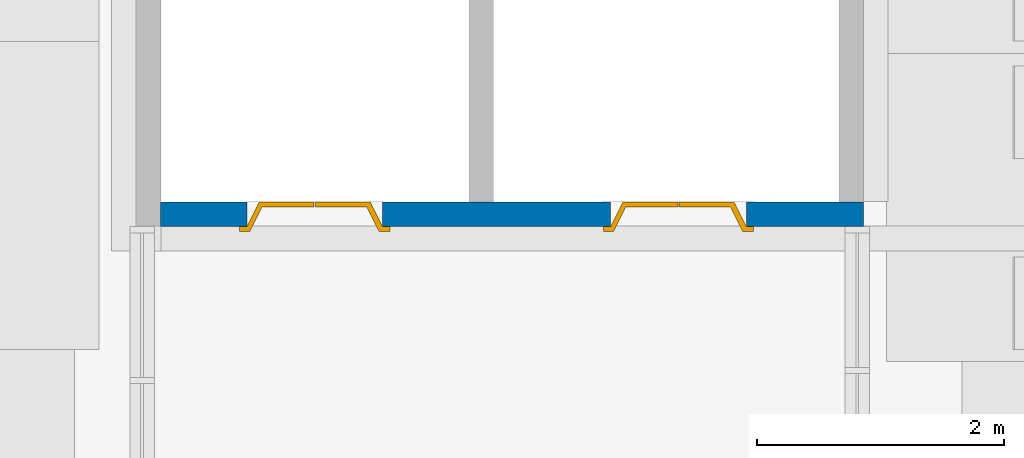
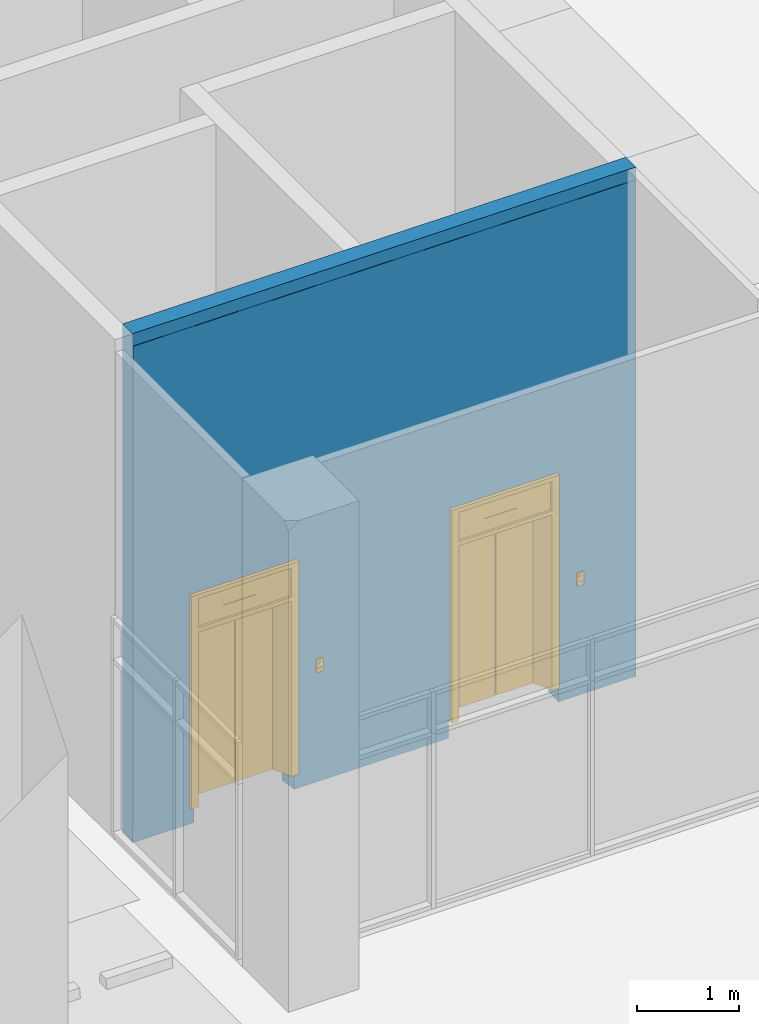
# One storey, part 23 of 29: 2 doors, 1 wall, 2 openings.
"""IFC2X3 building model written with IfcOpenShell, lengths in millimetres."""

import ifcopenshell
import ifcopenshell.guid

model = None  # the IFC model being written
_history = None  # IfcOwnerHistory: only IFC2X3 demands one
_inside = {}  # id of a spatial element -> (the spatial element, [elements in it])
_under = {}  # id of a project, library or spatial element -> (it, [spatial elements below it])
_declared = {}  # id of a project -> (the project, [libraries it declares])
_typed = {}  # id of a type object -> (the type object, [elements of that type])
_made_of = {}  # id of a material, layer set ... -> (it, [elements and type objects made of it])


def new_model(schema):
    """Start an empty IFC model of exactly this schema.

    Asked for "IFC4X3", IfcOpenShell would pick the latest addendum, in which some entities
    have other attributes; the version numbers below select the first issue.
    IFC2X3 requires an IfcOwnerHistory on every rooted entity: one is made here for all.
    """
    global model, _history
    if schema == "IFC4X3":
        model = ifcopenshell.file(schema_version=(4, 3, 0, 0))
    else:
        model = ifcopenshell.file(schema=schema)
    _inside.clear()
    _under.clear()
    _declared.clear()
    _typed.clear()
    _made_of.clear()
    _history = None
    if model.schema == "IFC2X3":
        org = make("IfcOrganization", Name="unknown")
        user = make(
            "IfcPersonAndOrganization",
            ThePerson=make("IfcPerson", FamilyName="unknown"),
            TheOrganization=org,
        )
        app = make(
            "IfcApplication",
            ApplicationDeveloper=org,
            Version="unknown",
            ApplicationFullName="unknown",
            ApplicationIdentifier="unknown",
        )
        _history = make(
            "IfcOwnerHistory",
            OwningUser=user,
            OwningApplication=app,
            ChangeAction="ADDED",
            CreationDate=0,
        )
    return model


def make(cls, **values):
    """One entity of the class cls with the attributes given. An attribute that is None is left unset."""
    return model.create_entity(
        cls, **{name: value for name, value in values.items() if value is not None}
    )


def entity(cls, *values):
    """Any entity or typed value of the class cls, its attributes in the order of the schema. None: left unset."""
    e = model.create_entity(cls)
    for i, value in enumerate(values):
        if value is not None:
            e[i] = value
    return e


def rooted(cls, **values):
    """An entity with a GlobalId (a new one), such as an element, a storey or a relation."""
    return make(cls, GlobalId=ifcopenshell.guid.new(), OwnerHistory=_history, **values)


def si_unit(unit_type, name, prefix=None):
    """IfcSIUnit, for example si_unit("LENGTHUNIT", "METRE", prefix="MILLI")."""
    return make("IfcSIUnit", UnitType=unit_type, Prefix=prefix, Name=name)


def converted_unit(unit_type, name, factor, base, dimensions=None, offset=None):
    """IfcConversionBasedUnit, such as the inch: factor (a typed value) times the base unit."""
    return make(
        "IfcConversionBasedUnit"
        if offset is None
        else "IfcConversionBasedUnitWithOffset",
        ConversionOffset=offset,
        Dimensions=None
        if dimensions is None
        else entity("IfcDimensionalExponents", *dimensions),
        UnitType=unit_type,
        Name=name,
        ConversionFactor=make(
            "IfcMeasureWithUnit", ValueComponent=factor, UnitComponent=base
        ),
    )


def derived_unit(unit_type, elements):
    """IfcDerivedUnit: a product of units, each with its exponent."""
    return make(
        "IfcDerivedUnit",
        Elements=[
            make("IfcDerivedUnitElement", Unit=unit, Exponent=power)
            for unit, power in elements
        ],
        UnitType=unit_type,
    )


def assignment(units):
    """IfcUnitAssignment: the units of a project."""
    return None if units is None else make("IfcUnitAssignment", Units=units)


def point(xyz):
    """IfcCartesianPoint."""
    return None if xyz is None else make("IfcCartesianPoint", Coordinates=xyz)


def direction(xyz):
    """IfcDirection."""
    return None if xyz is None else make("IfcDirection", DirectionRatios=xyz)


def frame(location, z_axis=None, x_axis=None):
    """IfcAxis2Placement3D, a coordinate frame: its origin and axes. An axis left out is left unset."""
    return make(
        "IfcAxis2Placement3D",
        Location=point(location),
        Axis=direction(z_axis),
        RefDirection=direction(x_axis),
    )


def frame_2d(location, x_axis=None):
    """IfcAxis2Placement2D, a coordinate frame in the plane: its origin and x axis."""
    return make(
        "IfcAxis2Placement2D", Location=point(location), RefDirection=direction(x_axis)
    )


def origin():
    """The frame at (0, 0, 0) with its axes left unset."""
    return frame((0.0, 0.0, 0.0))


def place(relative_to, where):
    """IfcLocalPlacement: puts the frame where relative to a parent placement (None: the world)."""
    return make(
        "IfcLocalPlacement", PlacementRelTo=relative_to, RelativePlacement=where
    )


def context(
    kind, dimensions, precision=None, world=None, true_north=None, identifier=None
):
    """IfcGeometricRepresentationContext, for example the 3D "Model" context."""
    return make(
        "IfcGeometricRepresentationContext",
        ContextIdentifier=identifier,
        ContextType=kind,
        CoordinateSpaceDimension=dimensions,
        Precision=precision,
        WorldCoordinateSystem=world,
        TrueNorth=true_north,
    )


def subcontext(parent, identifier, kind, view, scale=None):
    """IfcGeometricRepresentationSubContext, for example "Body" below "Model"."""
    return make(
        "IfcGeometricRepresentationSubContext",
        ContextIdentifier=identifier,
        ContextType=kind,
        ParentContext=parent,
        TargetScale=scale,
        TargetView=view,
    )


def project(units=None, contexts=None):
    """IfcProject with its units and contexts."""
    return rooted(
        "IfcProject",
        Name="project",
        RepresentationContexts=contexts,
        UnitsInContext=assignment(units),
    )


def spatial(cls, under=None, at=None, **own):
    """A site, building, storey or space (cls), placed at a placement, below another one or the project."""
    s = rooted(cls, ObjectPlacement=at, **own)
    if under is not None:
        _under.setdefault(under.id(), (under, []))[1].append(s)
    return s


def profile(cls, at=None, kind="AREA", **sizes):
    """A parametric profile (cls). Its sizes go by their IFC names, for example OverallWidth=200.0."""
    return make(cls, ProfileType=kind, Position=at, **sizes)


def rectangle(**sizes):
    """IfcRectangleProfileDef."""
    return profile("IfcRectangleProfileDef", **sizes)


def extrude(swept, where, along, depth):
    """IfcExtrudedAreaSolid: the profile swept, set in the frame where, extruded along a direction by depth."""
    return make(
        "IfcExtrudedAreaSolid",
        SweptArea=swept,
        Position=where,
        ExtrudedDirection=direction(along),
        Depth=depth,
    )


def faces_of(points, faces, orient=None, outer=None):
    """IfcFace entities. A face is a list of loops; a loop is a list of indices into points, from 0.

    orient and outer hold one flag for each loop. By default every Orientation is true, the
    first loop of a face is its IfcFaceOuterBound and the others are IfcFaceBound.
    """
    made = []
    for i, loops in enumerate(faces):
        bounds = []
        for j, loop in enumerate(loops):
            is_outer = j == 0 if outer is None else outer[i][j]
            bounds.append(
                make(
                    "IfcFaceOuterBound" if is_outer else "IfcFaceBound",
                    Bound=make("IfcPolyLoop", Polygon=[points[k] for k in loop]),
                    Orientation=True if orient is None else orient[i][j],
                )
            )
        made.append(make("IfcFace", Bounds=bounds))
    return made


def faceted_brep(points, faces, orient=None, outer=None, voids=None):
    """IfcFacetedBrep: a solid bounded by flat faces; with voids (closed shells), ...WithVoids."""
    shared = [point(p) for p in points]
    hull = make("IfcClosedShell", CfsFaces=faces_of(shared, faces, orient, outer))
    if voids is None:
        return make("IfcFacetedBrep", Outer=hull)
    return make(
        "IfcFacetedBrepWithVoids",
        Outer=hull,
        Voids=[
            make(cls, CfsFaces=faces_of(shared, fs, o, b)) for cls, fs, o, b in voids
        ],
    )


def shape(context_of_items, identifier, shape_type, items):
    """IfcShapeRepresentation: the items that make up one representation, for example the "Body"."""
    return make(
        "IfcShapeRepresentation",
        ContextOfItems=context_of_items,
        RepresentationIdentifier=identifier,
        RepresentationType=shape_type,
        Items=items,
    )


def source(mapping_origin, context_of_items, identifier, shape_type, items):
    """IfcRepresentationMap: a shape defined once, which mapped items show again and again."""
    return make(
        "IfcRepresentationMap",
        MappingOrigin=mapping_origin,
        MappedRepresentation=shape(context_of_items, identifier, shape_type, items),
    )


def transform(
    local_origin,
    x_axis=None,
    y_axis=None,
    z_axis=None,
    scale=None,
    scale2=None,
    scale3=None,
    uniform=True,
):
    """IfcCartesianTransformationOperator3D, or its non-uniform kind. x_axis, y_axis, z_axis: its Axis1, 2, 3."""
    if uniform:
        return make(
            "IfcCartesianTransformationOperator3D",
            Axis1=direction(x_axis),
            Axis2=direction(y_axis),
            LocalOrigin=point(local_origin),
            Scale=scale,
            Axis3=direction(z_axis),
        )
    return make(
        "IfcCartesianTransformationOperator3DnonUniform",
        Axis1=direction(x_axis),
        Axis2=direction(y_axis),
        LocalOrigin=point(local_origin),
        Scale=scale,
        Axis3=direction(z_axis),
        Scale2=scale2,
        Scale3=scale3,
    )


def mapped(mapping_source, mapping_target):
    """IfcMappedItem: shows the shape of a source again, moved by a transform."""
    return make(
        "IfcMappedItem", MappingSource=mapping_source, MappingTarget=mapping_target
    )


def material(Name=None, Category=None):
    """IfcMaterial."""
    return make("IfcMaterial", Name=Name, Category=Category)


def material_list(materials):
    """IfcMaterialList."""
    return make("IfcMaterialList", Materials=materials)


def layer(
    of_material, thickness, ventilated=None, Name=None, Category=None, Priority=None
):
    """IfcMaterialLayer: one layer of a wall or slab, of a material (None: an air gap)."""
    return make(
        "IfcMaterialLayer",
        Material=of_material,
        LayerThickness=thickness,
        IsVentilated=ventilated,
        Name=Name,
        Category=Category,
        Priority=Priority,
    )


def layer_set(layers, Name=None):
    """IfcMaterialLayerSet."""
    return make("IfcMaterialLayerSet", MaterialLayers=layers, LayerSetName=Name)


def made_of(thing, what):
    """Note that an element or type object is made of a material, layer set ...; save() writes the relation."""
    if what is not None:
        _made_of.setdefault(what.id(), (what, []))[1].append(thing)
    return thing


def type_object(cls, material=None, **own):
    """A type object (cls), such as IfcWallType, which elements share."""
    return made_of(rooted(cls, **own), material)


def type_shapes(of_type, sources):
    """Give a type object the sources (RepresentationMaps) that its elements show as mapped items."""
    of_type.RepresentationMaps = sources


def element(
    cls,
    number,
    at=None,
    inside=None,
    cuts=None,
    type_object=None,
    material=None,
    context=None,
    identifier="Body",
    shape_type=None,
    held_by="IfcProductDefinitionShape",
    body=None,
    shapes=None,
    **own,
):
    """One element of the class cls, such as IfcWall. Its Tag is "e" and its number.

    at: its placement. inside: the storey or other place that contains it. cuts: it is an
    opening in that element (IfcRelVoidsElement). A single representation is given by context,
    identifier, shape_type and body (its items); several are given by shapes. held_by: the class
    of the entity that holds the representations. save() writes the other relations.
    """
    e = rooted(cls, Tag="e%d" % number, ObjectPlacement=at, **own)
    if body is not None:
        shapes = [shape(context, identifier, shape_type, body)]
    if shapes is not None:
        e.Representation = make(held_by, Representations=shapes)
    if inside is not None:
        _inside.setdefault(inside.id(), (inside, []))[1].append(e)
    if cuts is not None:
        rooted(
            "IfcRelVoidsElement", RelatingBuildingElement=cuts, RelatedOpeningElement=e
        )
    if type_object is not None:
        _typed.setdefault(type_object.id(), (type_object, []))[1].append(e)
    return made_of(e, material)


def fill(opening, filler):
    """IfcRelFillsElement: the door or window that sits in an opening."""
    return rooted(
        "IfcRelFillsElement",
        RelatingOpeningElement=opening,
        RelatedBuildingElement=filler,
    )


def aggregate(whole, parts):
    """IfcRelAggregates: a whole, such as a stair, and the parts it consists of."""
    return rooted("IfcRelAggregates", RelatingObject=whole, RelatedObjects=parts)


def save(model, path):
    """Write the relations noted so far, then the file.

    IfcRelAggregates (storeys below a building ...), IfcRelContainedInSpatialStructure (elements
    in a storey), IfcRelDefinesByType, IfcRelAssociatesMaterial and IfcRelDeclares: one each for
    every whole, place, type object, material and project.
    """
    for whole, parts in _under.values():
        aggregate(whole, parts)
    for where, things in _inside.values():
        rooted(
            "IfcRelContainedInSpatialStructure",
            RelatedElements=things,
            RelatingStructure=where,
        )
    for kind, things in _typed.values():
        rooted("IfcRelDefinesByType", RelatedObjects=things, RelatingType=kind)
    for what, things in _made_of.values():
        rooted("IfcRelAssociatesMaterial", RelatedObjects=things, RelatingMaterial=what)
    for by, libraries in _declared.values():
        rooted("IfcRelDeclares", RelatingContext=by, RelatedDefinitions=libraries)
    model.write(path)


model = new_model("IFC2X3")

# Units and contexts
model_context = context("Model", 3, precision=0.01, world=origin(), true_north=direction((6.123031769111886e-17, 1.0)))
body_context = subcontext(model_context, "Body", "Model", "MODEL_VIEW")
ifc_project = project(units=[si_unit("LENGTHUNIT", "METRE", prefix="MILLI"), si_unit("AREAUNIT", "SQUARE_METRE"), si_unit("VOLUMEUNIT", "CUBIC_METRE"), converted_unit("PLANEANGLEUNIT", "DEGREE", entity("IfcRatioMeasure", 0.017453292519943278), si_unit("PLANEANGLEUNIT", "RADIAN"), dimensions=[0, 0, 0, 0, 0, 0, 0]), si_unit("MASSUNIT", "GRAM", prefix="KILO"), derived_unit("MASSDENSITYUNIT", [(si_unit("MASSUNIT", "GRAM", prefix="KILO"), 1), (si_unit("LENGTHUNIT", "METRE"), -3)]), derived_unit("MOMENTOFINERTIAUNIT", [(si_unit("LENGTHUNIT", "METRE"), 4)]), si_unit("TIMEUNIT", "SECOND"), si_unit("FREQUENCYUNIT", "HERTZ"), si_unit("THERMODYNAMICTEMPERATUREUNIT", "DEGREE_CELSIUS"), derived_unit("THERMALTRANSMITTANCEUNIT", [(si_unit("MASSUNIT", "GRAM", prefix="KILO"), 1), (si_unit("THERMODYNAMICTEMPERATUREUNIT", "KELVIN"), -1), (si_unit("TIMEUNIT", "SECOND"), -3)]), derived_unit("VOLUMETRICFLOWRATEUNIT", [(si_unit("LENGTHUNIT", "METRE"), 3), (si_unit("TIMEUNIT", "SECOND"), -1)]), derived_unit("MASSFLOWRATEUNIT", [(si_unit("MASSUNIT", "GRAM", prefix="KILO"), 1), (si_unit("TIMEUNIT", "SECOND"), -1)]), derived_unit("ROTATIONALFREQUENCYUNIT", [(si_unit("TIMEUNIT", "SECOND"), -1)]), si_unit("ELECTRICCURRENTUNIT", "AMPERE"), si_unit("ELECTRICVOLTAGEUNIT", "VOLT"), si_unit("POWERUNIT", "WATT"), si_unit("FORCEUNIT", "NEWTON", prefix="KILO"), si_unit("ILLUMINANCEUNIT", "LUX"), si_unit("LUMINOUSFLUXUNIT", "LUMEN"), si_unit("LUMINOUSINTENSITYUNIT", "CANDELA"), derived_unit("USERDEFINED", [(si_unit("MASSUNIT", "GRAM", prefix="KILO"), -1), (si_unit("LENGTHUNIT", "METRE"), -2), (si_unit("TIMEUNIT", "SECOND"), 3), (si_unit("LUMINOUSFLUXUNIT", "LUMEN"), 1)]), derived_unit("SOUNDPOWERUNIT", [(si_unit("MASSUNIT", "GRAM", prefix="KILO"), 1), (si_unit("LENGTHUNIT", "METRE"), 2), (si_unit("TIMEUNIT", "SECOND"), -3)]), derived_unit("SOUNDPRESSUREUNIT", [(si_unit("MASSUNIT", "GRAM", prefix="KILO"), 1), (si_unit("LENGTHUNIT", "METRE"), -1), (si_unit("TIMEUNIT", "SECOND"), -2)]), derived_unit("LINEARVELOCITYUNIT", [(si_unit("LENGTHUNIT", "METRE"), 1), (si_unit("TIMEUNIT", "SECOND"), -1)]), si_unit("PRESSUREUNIT", "PASCAL"), derived_unit("USERDEFINED", [(si_unit("LENGTHUNIT", "METRE"), -2), (si_unit("MASSUNIT", "GRAM", prefix="KILO"), 1), (si_unit("TIMEUNIT", "SECOND"), -2)]), derived_unit("LINEARFORCEUNIT", [(si_unit("MASSUNIT", "GRAM", prefix="KILO"), 1), (si_unit("LENGTHUNIT", "METRE"), 1), (si_unit("TIMEUNIT", "SECOND"), -2), (si_unit("LENGTHUNIT", "METRE"), -1)]), derived_unit("PLANARFORCEUNIT", [(si_unit("MASSUNIT", "GRAM", prefix="KILO"), 1), (si_unit("LENGTHUNIT", "METRE"), 1), (si_unit("TIMEUNIT", "SECOND"), -2), (si_unit("LENGTHUNIT", "METRE"), -2)])], contexts=[model_context])

# Site, building, storey
site_placement = place(None, frame((-14167.972527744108, -657.2125860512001, 0.0)))
site = spatial("IfcSite", under=ifc_project, at=site_placement, Name="Default", CompositionType="ELEMENT")
building_placement = place(site_placement, origin())
building = spatial("IfcBuilding", under=site, at=building_placement, Name="Sample Building", CompositionType="ELEMENT")
storey_placement = place(building_placement, frame((0.0, 0.0, -6100.0)))
storey = spatial("IfcBuildingStorey", under=building, at=storey_placement, Name="지하1층", CompositionType="ELEMENT", Elevation=-6099.999999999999)

# Wall, openings, doors
ifc_material_1 = material(Name="KBIMS-콘크리트")
ifc_layer = layer(ifc_material_1, 200.0)
ifc_layer_set = layer_set([ifc_layer], Name="기본 벽:WA111-철근콘크리트구조 벽 200mm_CW3")
wall_type = type_object("IfcWallType", Name="기본 벽:WA111-철근콘크리트구조 벽 200mm_CW3", PredefinedType="STANDARD", material=ifc_layer_set)
wall_placement = place(storey_placement, frame((35967.97249113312, 15653.302947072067, 0.0), z_axis=(0.0, 0.0, 1.0), x_axis=(-1.0, 0.0, 0.0)))
wall = element("IfcWall", 1, at=wall_placement, inside=storey, type_object=wall_type, Name="기본 벽:WA111-철근콘크리트구조 벽 200mm_CW3", ObjectType="기본 벽:WA111-철근콘크리트구조 벽 200mm_CW3", context=body_context, shape_type="Brep", body=[
    faceted_brep([(5701.846676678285, -100.0, 6100.0), (5624.726592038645, -100.0, 6100.0), (3199.999774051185, -100.0, 6100.0), (2999.9997740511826, -100.0, 6100.0), (200.0, -100.0, 6100.0), (0.0, -100.0, 6100.0), (0.0, -100.0, 5950.0), (0.0, -100.0, 0.0), (200.0, -100.0, 0.0), (876.231442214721, -100.0, 0.0), (876.231442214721, -100.0, 200.0), (949.9999097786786, -100.0, 200.0), (949.9999097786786, -100.0, 2750.0), (2049.9999097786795, -100.0, 2750.0), (2049.9999097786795, -100.0, 200.0), (2123.768377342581, -100.0, 200.0), (2123.768377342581, -100.0, 0.0), (2999.9997740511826, -100.0, 0.0), (3199.999774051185, -100.0, 0.0), (3896.680861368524, -100.0, 0.0), (3896.680861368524, -100.0, 200.0), (3900.923225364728, -100.0, 200.0), (3900.923225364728, -100.0, 2750.0), (5000.92322536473, -100.0, 2750.0), (5000.92322536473, -100.0, 200.0), (5004.691692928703, -100.0, 200.0), (5004.691692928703, -100.0, 0.0), (5701.846676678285, -100.0, 0.0), (5701.846676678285, -100.0, 5250.0), (2049.9999097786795, 100.0, 200.0), (2049.9999097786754, 100.0, 2750.0), (949.9999097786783, 100.0, 2750.0), (949.9999097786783, 100.0, 200.0), (0.0, 100.0, 200.0), (0.0, 100.0, 4700.0), (0.0, 100.0, 5250.0), (0.0, 100.0, 5950.0), (5624.726592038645, 100.0, 5950.0), (5701.846676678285, 100.0, 5950.0), (5701.846676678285, 100.0, 200.0), (5000.92322536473, 100.0, 200.0), (5000.923225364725, 100.0, 2750.0), (3900.923225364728, 100.0, 2750.0), (3900.923225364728, 100.0, 200.0), (0.0, 96.09036102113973, 0.0), (876.2314422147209, 96.09036102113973, 0.0), (5701.846676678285, 96.09063908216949, 6100.0), (0.0, 96.09063908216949, 6100.0), (0.0, 96.09063908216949, 5950.0), (0.0, 96.09036102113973, 200.0), (5701.846676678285, 96.09036102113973, 0.0), (5701.846676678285, 96.09036102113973, 200.0), (5701.846676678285, 96.09063908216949, 5950.0), (876.2314422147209, 96.09036102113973, 200.0), (5004.691692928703, 96.09036102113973, 0.0), (5004.691692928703, 96.09036102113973, 200.0), (3872.912292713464, 96.09036102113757, 0.0), (3872.912292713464, 96.09036102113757, 200.0), (2123.768377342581, 96.09036102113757, 200.0), (2123.768377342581, 96.09036102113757, 0.0)], [[[0, 1, 2, 3, 4, 5, 6, 7, 8, 9, 10, 11, 12, 13, 14, 15, 16, 17, 18, 19, 20, 21, 22, 23, 24, 25, 26, 27, 28]], [[29, 30, 31, 32, 33, 34, 35, 36, 37, 38, 39, 40, 41, 42, 43]], [[9, 8, 7, 44, 45]], [[5, 4, 3, 2, 1, 0, 46, 47]], [[6, 5, 47, 48, 36, 35, 34, 33, 49, 44, 7]], [[13, 30, 29, 14]], [[30, 13, 12, 31]], [[31, 12, 11, 32]], [[23, 41, 40, 24]], [[41, 23, 22, 42]], [[42, 22, 21, 43]], [[0, 28, 27, 50, 51, 39, 38, 52, 46]], [[53, 49, 33, 32, 11, 10]], [[49, 53, 45, 44]], [[54, 55, 51, 50]], [[55, 54, 26, 25]], [[56, 57, 20, 19]], [[58, 57, 56, 59]], [[58, 59, 16, 15]], [[45, 53, 10, 9]], [[48, 52, 38, 37, 36]], [[52, 48, 47, 46]], [[57, 58, 15, 14, 29, 43, 21, 20]], [[51, 55, 25, 24, 40, 39]], [[19, 18, 17, 16, 59, 56]], [[27, 26, 54, 50]]]),
])
opening_1_placement = place(wall_placement, frame((5000.923225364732, 100.0, 200.0)))
opening_1 = element("IfcOpeningElement", 2, at=opening_1_placement, cuts=wall, Name="EE111-엘리베이터문(문):EE111-엘리베이터문(20인승)_1100x2550:1", ObjectType="Opening", context=body_context, shape_type="SweptSolid", body=[
    extrude(rectangle(XDim=2549.999999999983, YDim=1099.9999999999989, at=frame_2d((1274.9999999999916, 550.0000000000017), x_axis=(1.0, 0.0))), frame((0.0, 0.0, 0.0), z_axis=(0.0, -1.0, 0.0), x_axis=(0.0, 0.0, 1.0)), (0.0, 0.0, 1.0), 200.0),
])
opening_2_placement = place(wall_placement, frame((2049.999909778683, 100.0, 200.0)))
opening_2 = element("IfcOpeningElement", 3, at=opening_2_placement, cuts=wall, Name="EE111-엘리베이터문(문):EE111-엘리베이터문(20인승)_1100x2550:1", ObjectType="Opening", context=body_context, shape_type="SweptSolid", body=[
    extrude(rectangle(XDim=2549.999999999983, YDim=1099.9999999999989, at=frame_2d((1274.9999999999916, 550.0000000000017), x_axis=(1.0, 0.0))), frame((0.0, 0.0, 0.0), z_axis=(0.0, -1.0, 0.0), x_axis=(0.0, 0.0, 1.0)), (0.0, 0.0, 1.0), 200.0),
])
ifc_material_2 = material(Name="<Unnamed>")
ifc_material_list_1 = material_list([ifc_material_2, ifc_material_2, ifc_material_2, ifc_material_2])
ifc_material_list_2 = material_list([ifc_material_2, ifc_material_2, ifc_material_2, ifc_material_2])
door_style = type_object("IfcDoorStyle", Name="EE111-엘리베이터문(문):EE111-엘리베이터문(20인승)_1100x2550", ConstructionType="NOTDEFINED", OperationType="DOUBLE_DOOR_SLIDING", ParameterTakesPrecedence=False, Sizeable=False, material=ifc_material_list_2)
shared_shape = source(origin(), body_context, "Body", "Brep", [
    faceted_brep([(-296.2736811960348, 220.43384628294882, 1175.0), (-313.5941892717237, 220.4338462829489, 1145.0), (-330.9146973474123, 220.43384628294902, 1175.0), (-296.2736811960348, 215.04269782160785, 1175.0), (-330.9146973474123, 215.0426978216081, 1175.0), (-313.5941892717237, 215.04269782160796, 1145.0)], [[[0, 1, 2]], [[3, 4, 5]], [[1, 0, 3, 5]], [[2, 1, 5, 4]], [[0, 2, 4, 3]]]),
    faceted_brep([(-330.9146973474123, 220.43384628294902, 1225.0), (-296.2736811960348, 220.43384628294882, 1225.0), (-296.2736811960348, 215.04269782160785, 1225.0), (-330.9146973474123, 215.04269782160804, 1225.0), (-313.5941892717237, 220.4338462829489, 1255.0), (-313.5941892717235, 215.04269782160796, 1255.0)], [[[0, 1, 2, 3]], [[4, 0, 3, 5]], [[1, 4, 5, 2]], [[2, 5, 3]], [[1, 0, 4]]]),
    faceted_brep([(-351.5567877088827, 215.0426978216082, 1277.0326998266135), (-275.63159083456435, 215.04269782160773, 1277.0326998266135), (-275.63159083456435, 215.04269782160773, 1122.967300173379), (-351.5567877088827, 215.0426978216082, 1122.967300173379), (-351.55678770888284, 200.0, 1277.0326998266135), (-351.55678770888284, 200.0, 1122.967300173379), (-275.6315908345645, 200.0, 1122.967300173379), (-275.6315908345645, 200.0, 1277.0326998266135)], [[[0, 1, 2, 3]], [[4, 5, 6, 7]], [[1, 0, 4, 7]], [[2, 1, 7, 6]], [[3, 2, 6, 5]], [[0, 3, 5, 4]]]),
    faceted_brep([(-60.0, 200.0, 2550.0), (-60.0, 240.0, 2550.0), (-60.0, 240.0, 0.0), (-60.0, 200.0, 0.0), (703.014298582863, 240.0, 2550.0), (703.014298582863, 240.0, 2500.0), (27.911234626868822, 240.0, 2500.0), (27.911234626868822, 240.0, 2150.0), (703.014298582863, 240.0, 2150.0), (703.014298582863, 240.0, 2100.0), (27.911234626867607, 240.0, 2100.0), (27.911234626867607, 240.0, 0.0), (978.5926496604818, 40.0, 0.0), (1078.5926496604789, 240.0, 0.0), (1160.0, 240.0, 0.0), (1160.0, 200.0, 0.0), (1100.0, 200.0, 0.0), (1000.0, 0.0, 0.0), (555.0, 0.0, 0.0), (555.0, 40.0, 0.0), (0.0, 200.0, 2550.0), (0.0, 200.0, 0.0), (100.0, 0.0, 2550.0), (100.0, 0.0, 0.0), (1000.0, 0.0, 2550.0), (545.0, 0.0, 0.0), (545.0, 0.0, 2100.0), (555.0, 0.0, 2100.0), (545.0, 40.0, 0.0), (545.0, 40.0, 2100.0), (555.0, 40.0, 2100.0), (1100.0, 200.0, 2550.0), (1160.0, 200.0, 2550.0), (1160.0, 240.0, 2550.0), (1078.5926496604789, 240.0, 2100.0), (1078.5926496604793, 240.0, 2150.0), (1078.5926496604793, 240.0, 2500.0), (978.5926496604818, 40.0, 2100.0), (127.91123462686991, 40.0, 0.0), (127.91123462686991, 40.0, 2100.0), (1078.5926496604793, 214.08728771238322, 2150.0), (1078.5926496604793, 214.08728771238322, 2500.0), (27.911234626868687, 214.0872877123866, 2500.0), (27.911234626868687, 214.0872877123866, 2150.0), (550.0, 214.08728771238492, 2370.0), (410.8272722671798, 214.08728771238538, 2370.0), (410.8272722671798, 214.08728771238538, 2300.0), (550.0, 214.08728771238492, 2300.0), (789.172727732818, 214.08728771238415, 2300.0), (789.172727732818, 214.08728771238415, 2370.0), (550.0, 208.4787281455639, 2370.0), (410.8272722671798, 208.47872814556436, 2370.0), (410.8272722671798, 208.47872814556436, 2300.0), (789.172727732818, 208.47872814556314, 2300.0), (789.172727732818, 208.47872814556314, 2370.0), (550.0, 208.4787281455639, 2300.0)], [[[0, 1, 2, 3]], [[2, 1, 4, 5, 6, 7, 8, 9, 10, 11]], [[12, 13, 14, 15, 16, 17, 18, 19]], [[20, 0, 3, 21]], [[22, 20, 21, 23]], [[24, 22, 23, 25, 26, 27, 18, 17]], [[25, 28, 29, 26]], [[19, 18, 27, 30]], [[31, 24, 17, 16]], [[32, 31, 16, 15]], [[33, 32, 15, 14]], [[4, 33, 14, 13, 34, 9, 8, 35, 36, 5]], [[13, 12, 37, 34]], [[38, 11, 10, 39]], [[38, 39, 29, 28]], [[37, 12, 19, 30]], [[1, 0, 20, 22, 24, 31, 32, 33, 4]], [[40, 41, 36, 35]], [[41, 42, 6, 5, 36]], [[42, 43, 7, 6]], [[43, 42, 41, 40], [44, 45, 46, 47, 48, 49]], [[50, 51, 45, 44]], [[51, 52, 46, 45]], [[53, 54, 49, 48]], [[54, 50, 44, 49]], [[50, 54, 53, 55, 52, 51]], [[10, 9, 34, 37, 30, 27, 26, 29, 39]], [[43, 40, 35, 8, 7]], [[52, 55, 47, 46]], [[55, 53, 48, 47]], [[21, 3, 2, 11, 38, 28, 25, 23]]]),
])
type_shapes(door_style, [shared_shape])
door_1_placement = place(opening_1_placement, frame((-1100.0, -200.0, 0.0)))
door_1 = element("IfcDoor", 4, at=door_1_placement, inside=storey, type_object=door_style, material=ifc_material_list_1, Name="EE111-엘리베이터문(문):EE111-엘리베이터문(20인승)_1100x2550", ObjectType="EE111-엘리베이터문(문):EE111-엘리베이터문(20인승)_1100x2550", OverallHeight=2549.999999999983, OverallWidth=1100.0000000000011, context=body_context, shape_type="MappedRepresentation", body=[
    mapped(shared_shape, transform((0.0, 0.0, 0.0), scale=1.0)),
])
fill(opening_1, door_1)
door_2_placement = place(opening_2_placement, frame((-1100.0, -200.0, 0.0)))
door_2 = element("IfcDoor", 5, at=door_2_placement, inside=storey, type_object=door_style, material=ifc_material_2, Name="EE111-엘리베이터문(문):EE111-엘리베이터문(20인승)_1100x2550", ObjectType="EE111-엘리베이터문(문):EE111-엘리베이터문(20인승)_1100x2550", OverallHeight=2549.999999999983, OverallWidth=1100.0000000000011, context=body_context, shape_type="MappedRepresentation", body=[
    mapped(shared_shape, transform((0.0, 0.0, 0.0), scale=1.0)),
])
fill(opening_2, door_2)

save(model, "model.ifc")
